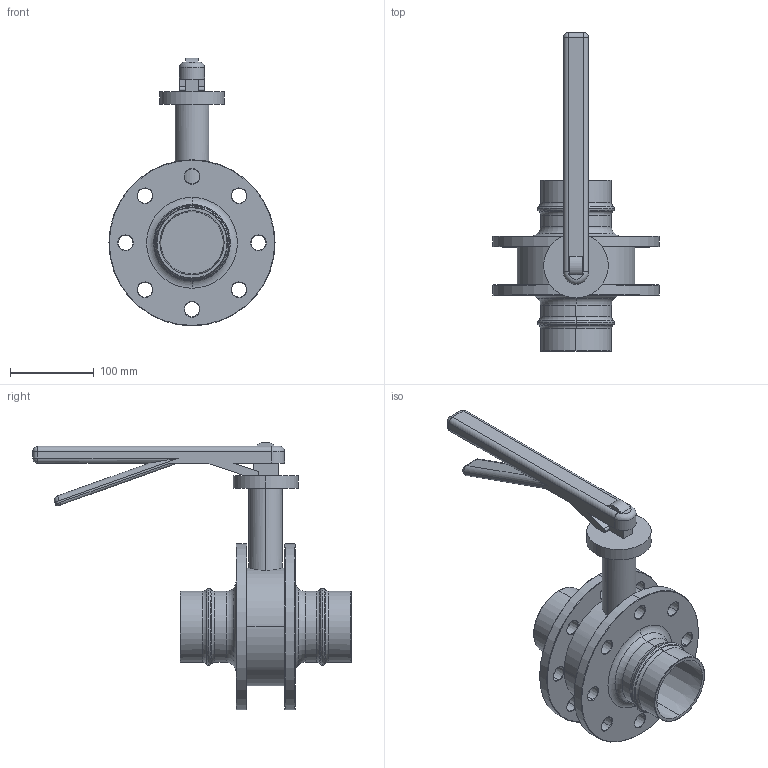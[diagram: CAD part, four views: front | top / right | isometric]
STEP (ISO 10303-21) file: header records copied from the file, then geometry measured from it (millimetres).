
FILE_DESCRIPTION((''),'2;1');
FILE_NAME('AU15705100','2017-05-12T',('Administrator'),(''),'PRO/ENGINEER BY PARAMETRIC TECHNOLOGY CORPORATION, 2009360','PRO/ENGINEER BY PARAMETRIC TECHNOLOGY CORPORATION, 2009360','');
FILE_SCHEMA(('AUTOMOTIVE_DESIGN_CC2 { 1 2 10303 214 -1 1 5 2 }'));
Length unit declared in the file: millimetre
Products named in the file (1): AU15705100
Bounding box: 197.87 x 379.5 x 318.93 mm (x, y, z)
Volume: 1918330 mm3; surface area: 264282.9 mm2
Topology: 1 solids, 1 shells, 241 faces, 628 edges, 382 vertices
Faces by surface type: cone 116, plane 46, cylinder 38, torus 34, sphere 6, bspline 1
Entity records: 9573 total; most frequent: DIRECTION 1513, CARTESIAN_POINT 1364, ORIENTED_EDGE 1256, AXIS2_PLACEMENT_3D 651, PRESENTATION_STYLE_ASSIGNMENT 629, STYLED_ITEM 629, CURVE_STYLE 628, EDGE_CURVE 628
